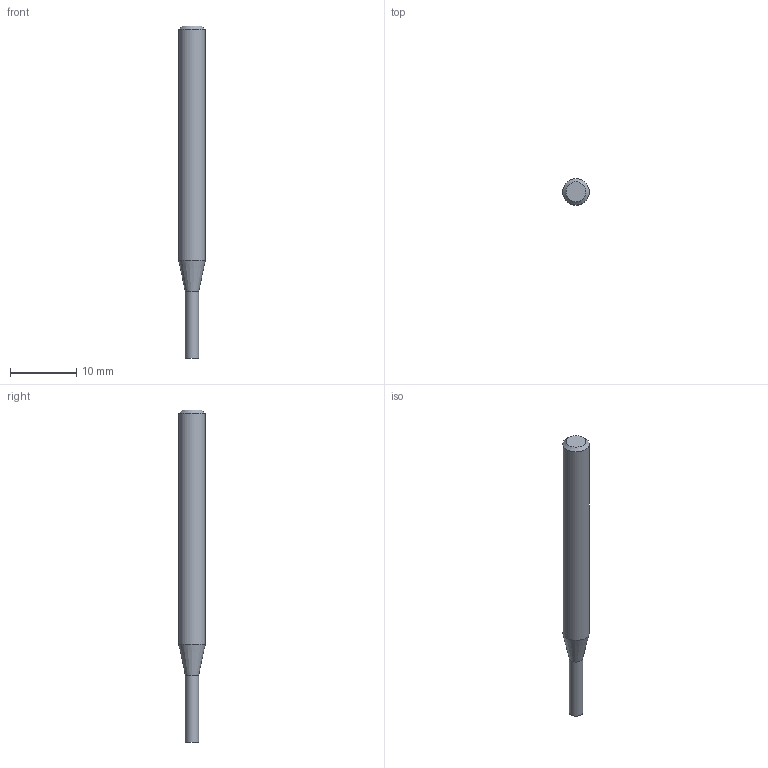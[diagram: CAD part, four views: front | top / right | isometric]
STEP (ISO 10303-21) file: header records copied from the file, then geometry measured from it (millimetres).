
FILE_DESCRIPTION((''),'2;1');
FILE_NAME('C:\Users\nsx150\AppData\Local\Temp\Mastercam 2021\E36A1X9CCL\TEMP.step','2023-04-21T15:28:08',(''),(''),'STEP Write','Mastercam 2021 ... CNC Software, Inc.','');
FILE_SCHEMA(('AUTOMOTIVE_DESIGN'));
Length unit declared in the file: millimetre
Products named in the file (1): None
Bounding box: 4 x 4 x 50 mm (x, y, z)
Volume: 508 mm3; surface area: 569.7 mm2
Topology: 2 solids, 2 shells, 8 faces, 10 edges, 6 vertices
Faces by surface type: plane 4, cylinder 2, cone 2
Full cylindrical faces by diameter (mm): 2 x1, 4 x1
Entity records: 190 total; most frequent: DIRECTION 32, CARTESIAN_POINT 22, AXIS2_PLACEMENT_3D 16, ORIENTED_EDGE 12, EDGE_LOOP 12, STYLED_ITEM 11, ADVANCED_FACE 8, VERTEX_POINT 6
